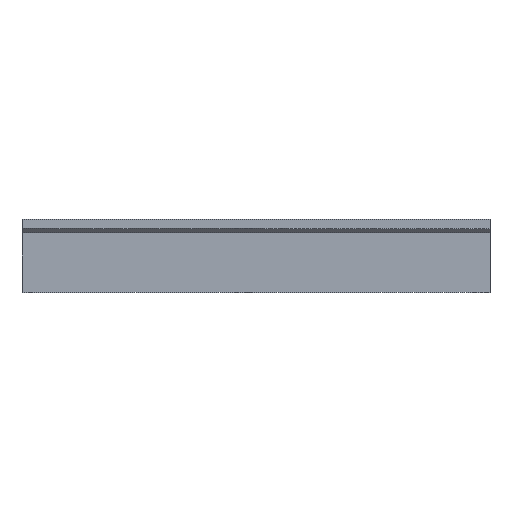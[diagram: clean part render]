
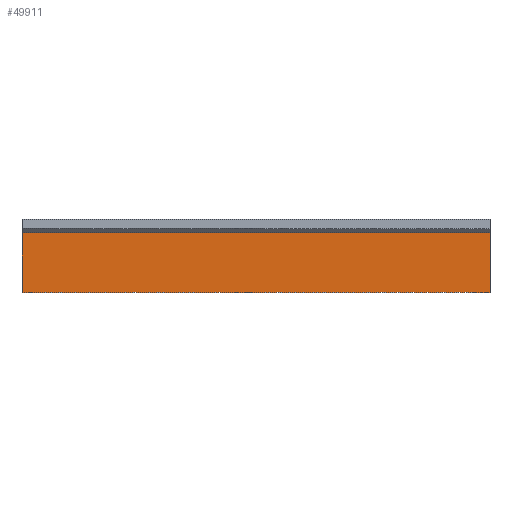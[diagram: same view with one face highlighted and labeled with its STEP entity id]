
A CAD part, front view. The second image highlights one B-rep face of the part: STEP entity #49911.
In plain terms, the highlighted planar face has unit normal (0, -1, 0).
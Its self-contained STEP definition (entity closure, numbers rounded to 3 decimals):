
#32 = PLANE('',#33);
#33 = AXIS2_PLACEMENT_3D('',#34,#35,#36);
#34 = CARTESIAN_POINT('',(-117.,-200.,3.));
#35 = DIRECTION('',(1.,0.,-0.));
#36 = DIRECTION('',(0.,0.,1.));
#225 = VERTEX_POINT('',#226);
#226 = CARTESIAN_POINT('',(-117.,-176.,29.9));
#244 = B_SPLINE_SURFACE_WITH_KNOTS('',1,1,(
    (#245,#246)
    ,(#247,#248
    )),.UNSPECIFIED.,.F.,.F.,.F.,(2,2),(2,2),(0.,388.2),(0.,1.),
  .PIECEWISE_BEZIER_KNOTS.);
#245 = CARTESIAN_POINT('',(-192.,-176.,29.9));
#246 = CARTESIAN_POINT('',(-194.1,-178.1,32.));
#247 = CARTESIAN_POINT('',(192.,-176.,29.9));
#248 = CARTESIAN_POINT('',(194.1,-178.1,32.));
#258 = EDGE_CURVE('',#259,#225,#261,.T.);
#259 = VERTEX_POINT('',#260);
#260 = CARTESIAN_POINT('',(-117.,-176.,0.));
#261 = SURFACE_CURVE('',#262,(#266,#273),.PCURVE_S1.);
#262 = LINE('',#263,#264);
#263 = CARTESIAN_POINT('',(-117.,-176.,0.));
#264 = VECTOR('',#265,1.);
#265 = DIRECTION('',(0.,0.,1.));
#266 = PCURVE('',#32,#267);
#267 = DEFINITIONAL_REPRESENTATION('',(#268),#272);
#268 = LINE('',#269,#270);
#269 = CARTESIAN_POINT('',(-3.,-24.));
#270 = VECTOR('',#271,1.);
#271 = DIRECTION('',(1.,0.));
#272 = ( GEOMETRIC_REPRESENTATION_CONTEXT(2) 
PARAMETRIC_REPRESENTATION_CONTEXT() REPRESENTATION_CONTEXT('2D SPACE',''
  ) );
#273 = PCURVE('',#274,#279);
#274 = PLANE('',#275);
#275 = AXIS2_PLACEMENT_3D('',#276,#277,#278);
#276 = CARTESIAN_POINT('',(-192.,-176.,4.));
#277 = DIRECTION('',(0.,1.,0.));
#278 = DIRECTION('',(1.,0.,0.));
#279 = DEFINITIONAL_REPRESENTATION('',(#280),#284);
#280 = LINE('',#281,#282);
#281 = CARTESIAN_POINT('',(75.,4.));
#282 = VECTOR('',#283,1.);
#283 = DIRECTION('',(0.,-1.));
#284 = ( GEOMETRIC_REPRESENTATION_CONTEXT(2) 
PARAMETRIC_REPRESENTATION_CONTEXT() REPRESENTATION_CONTEXT('2D SPACE',''
  ) );
#302 = PLANE('',#303);
#303 = AXIS2_PLACEMENT_3D('',#304,#305,#306);
#304 = CARTESIAN_POINT('',(0.,0.,0.));
#305 = DIRECTION('',(0.,0.,1.));
#306 = DIRECTION('',(1.,0.,-0.));
#29837 = PLANE('',#29838);
#29838 = AXIS2_PLACEMENT_3D('',#29839,#29840,#29841);
#29839 = CARTESIAN_POINT('',(117.,-200.,3.));
#29840 = DIRECTION('',(1.,0.,-0.));
#29841 = DIRECTION('',(0.,0.,1.));
#34134 = VERTEX_POINT('',#34135);
#34135 = CARTESIAN_POINT('',(117.,-176.,29.9));
#34162 = EDGE_CURVE('',#34163,#34134,#34165,.T.);
#34163 = VERTEX_POINT('',#34164);
#34164 = CARTESIAN_POINT('',(117.,-176.,0.));
#34165 = SURFACE_CURVE('',#34166,(#34170,#34177),.PCURVE_S1.);
#34166 = LINE('',#34167,#34168);
#34167 = CARTESIAN_POINT('',(117.,-176.,0.));
#34168 = VECTOR('',#34169,1.);
#34169 = DIRECTION('',(0.,0.,1.));
#34170 = PCURVE('',#29837,#34171);
#34171 = DEFINITIONAL_REPRESENTATION('',(#34172),#34176);
#34172 = LINE('',#34173,#34174);
#34173 = CARTESIAN_POINT('',(-3.,-24.));
#34174 = VECTOR('',#34175,1.);
#34175 = DIRECTION('',(1.,0.));
#34176 = ( GEOMETRIC_REPRESENTATION_CONTEXT(2) 
PARAMETRIC_REPRESENTATION_CONTEXT() REPRESENTATION_CONTEXT('2D SPACE',''
  ) );
#34177 = PCURVE('',#274,#34178);
#34178 = DEFINITIONAL_REPRESENTATION('',(#34179),#34183);
#34179 = LINE('',#34180,#34181);
#34180 = CARTESIAN_POINT('',(309.,4.));
#34181 = VECTOR('',#34182,1.);
#34182 = DIRECTION('',(0.,-1.));
#34183 = ( GEOMETRIC_REPRESENTATION_CONTEXT(2) 
PARAMETRIC_REPRESENTATION_CONTEXT() REPRESENTATION_CONTEXT('2D SPACE',''
  ) );
#49887 = EDGE_CURVE('',#259,#34163,#49888,.T.);
#49888 = SURFACE_CURVE('',#49889,(#49893,#49899),.PCURVE_S1.);
#49889 = LINE('',#49890,#49891);
#49890 = CARTESIAN_POINT('',(-96.,-176.,0.));
#49891 = VECTOR('',#49892,1.);
#49892 = DIRECTION('',(1.,0.,0.));
#49893 = PCURVE('',#302,#49894);
#49894 = DEFINITIONAL_REPRESENTATION('',(#49895),#49898);
#49895 = B_SPLINE_CURVE_WITH_KNOTS('',1,(#49896,#49897),.UNSPECIFIED.,
  .F.,.F.,(2,2),(-21.,213.),.PIECEWISE_BEZIER_KNOTS.);
#49896 = CARTESIAN_POINT('',(-117.,-176.));
#49897 = CARTESIAN_POINT('',(117.,-176.));
#49898 = ( GEOMETRIC_REPRESENTATION_CONTEXT(2) 
PARAMETRIC_REPRESENTATION_CONTEXT() REPRESENTATION_CONTEXT('2D SPACE',''
  ) );
#49899 = PCURVE('',#274,#49900);
#49900 = DEFINITIONAL_REPRESENTATION('',(#49901),#49905);
#49901 = LINE('',#49902,#49903);
#49902 = CARTESIAN_POINT('',(96.,4.));
#49903 = VECTOR('',#49904,1.);
#49904 = DIRECTION('',(1.,0.));
#49905 = ( GEOMETRIC_REPRESENTATION_CONTEXT(2) 
PARAMETRIC_REPRESENTATION_CONTEXT() REPRESENTATION_CONTEXT('2D SPACE',''
  ) );
#49911 = ADVANCED_FACE('',(#49912),#274,.F.);
#49912 = FACE_BOUND('',#49913,.F.);
#49913 = EDGE_LOOP('',(#49914,#49915,#49916,#49917));
#49914 = ORIENTED_EDGE('',*,*,#34162,.F.);
#49915 = ORIENTED_EDGE('',*,*,#49887,.F.);
#49916 = ORIENTED_EDGE('',*,*,#258,.T.);
#49917 = ORIENTED_EDGE('',*,*,#49918,.T.);
#49918 = EDGE_CURVE('',#225,#34134,#49919,.T.);
#49919 = SURFACE_CURVE('',#49920,(#49924,#49931),.PCURVE_S1.);
#49920 = LINE('',#49921,#49922);
#49921 = CARTESIAN_POINT('',(-192.,-176.,29.9));
#49922 = VECTOR('',#49923,1.);
#49923 = DIRECTION('',(1.,0.,0.));
#49924 = PCURVE('',#274,#49925);
#49925 = DEFINITIONAL_REPRESENTATION('',(#49926),#49930);
#49926 = LINE('',#49927,#49928);
#49927 = CARTESIAN_POINT('',(0.,-25.9));
#49928 = VECTOR('',#49929,1.);
#49929 = DIRECTION('',(1.,0.));
#49930 = ( GEOMETRIC_REPRESENTATION_CONTEXT(2) 
PARAMETRIC_REPRESENTATION_CONTEXT() REPRESENTATION_CONTEXT('2D SPACE',''
  ) );
#49931 = PCURVE('',#244,#49932);
#49932 = DEFINITIONAL_REPRESENTATION('',(#49933),#49936);
#49933 = B_SPLINE_CURVE_WITH_KNOTS('',1,(#49934,#49935),.UNSPECIFIED.,
  .F.,.F.,(2,2),(0.,384.),.PIECEWISE_BEZIER_KNOTS.);
#49934 = CARTESIAN_POINT('',(0.,0.));
#49935 = CARTESIAN_POINT('',(388.2,0.));
#49936 = ( GEOMETRIC_REPRESENTATION_CONTEXT(2) 
PARAMETRIC_REPRESENTATION_CONTEXT() REPRESENTATION_CONTEXT('2D SPACE',''
  ) );
